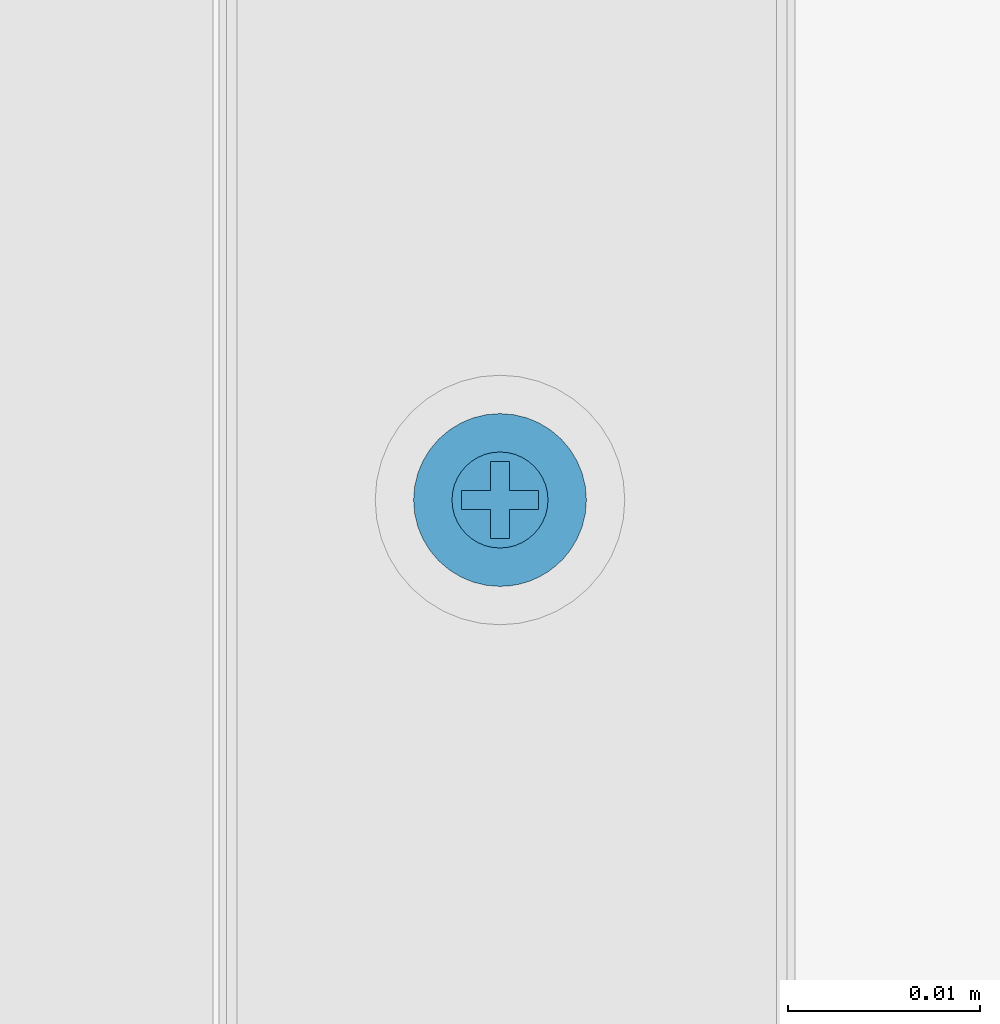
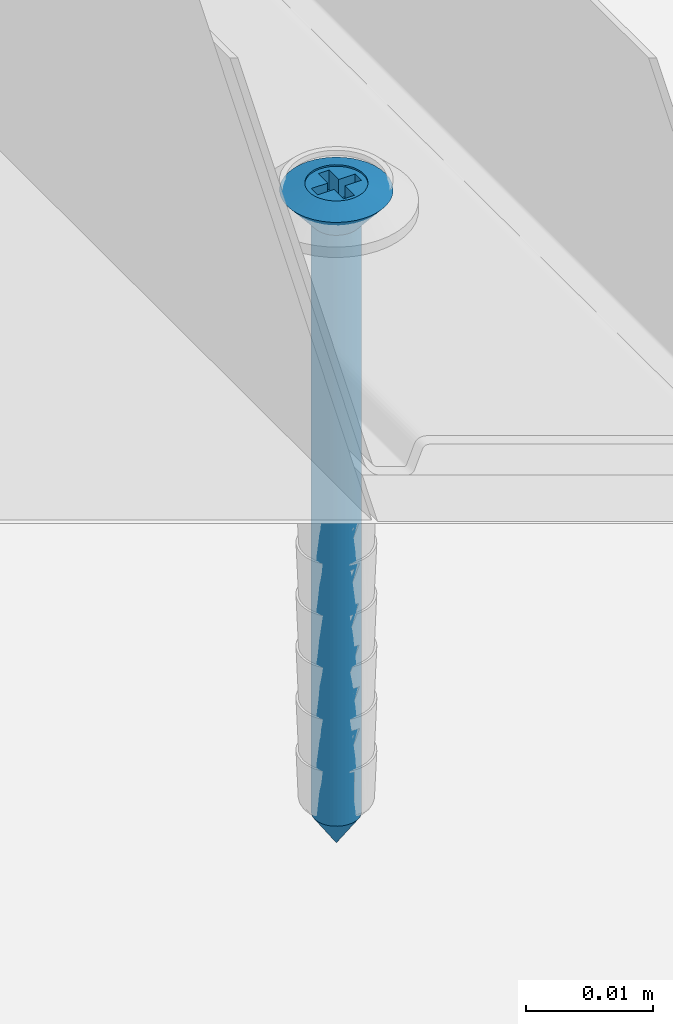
# One storey, part 50 of 61: 1 wall.
"""IFC2X3 building model written with IfcOpenShell, lengths in millimetres."""

from ifc_helpers import new_model, si_unit, frame, origin_with_axes, place, context, subcontext, project, spatial, faceted_brep, material, type_object, element, save


model = new_model("IFC2X3")

# Units and contexts
model_context = context("Model", 3, world=origin_with_axes())
body_context = subcontext(model_context, "Body", "Model", "MODEL_VIEW")
ifc_project = project(units=[si_unit("LENGTHUNIT", "METRE", prefix="MILLI"), si_unit("AREAUNIT", "SQUARE_METRE"), si_unit("VOLUMEUNIT", "CUBIC_METRE")], contexts=[model_context])

# Site, building, storey
site_placement = place(None, frame((2152.1410261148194, -2015.0250894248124, 57.61556563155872), z_axis=(0.0, 0.0, 1.0), x_axis=(-1.1102230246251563e-16, 1.0, 0.0)))
site = spatial("IfcSite", under=ifc_project, at=site_placement, Name="Default Site", CompositionType="ELEMENT")
building_placement = place(site_placement, origin_with_axes())
building = spatial("IfcBuilding", under=site, at=building_placement, Name="Default Building", CompositionType="ELEMENT")
storey_placement = place(building_placement, origin_with_axes())
storey = spatial("IfcBuildingStorey", under=building, at=storey_placement, Name="Default Building Storey", CompositionType="ELEMENT", Elevation=57.61556563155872)

# Wall
ifc_material = material(Name="Default")
wall_type = type_object("IfcWallType", Name="Kołek rozporowy min. fi 6#8", PredefinedType="NOTDEFINED")
wall_placement = place(storey_placement, frame((6993.464255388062, 3390.9954322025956, 10.384025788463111), z_axis=(-6.858158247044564e-13, 7.620176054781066e-14, 1.0), x_axis=(-1.6476028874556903e-11, 1.0, -7.620176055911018e-14)))
element("IfcWall", 1, at=wall_placement, inside=storey, type_object=wall_type, material=ifc_material, Name="Kołek rozporowy min. fi 6", context=body_context, shape_type="Brep", body=[
    faceted_brep([(-1438.3141994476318, 3453.2833099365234, -0.46425670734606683), (-1435.8141422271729, 3453.2833099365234, -3.464256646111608), (-1435.7895851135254, 3452.970266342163, -3.464256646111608), (-1438.2587671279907, 3452.579259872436, -0.46425670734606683), (-1435.7162714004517, 3452.6650905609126, -3.464256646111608), (-1438.093900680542, 3451.892614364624, -0.46425670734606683), (-1435.5961084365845, 3452.3751735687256, -3.464256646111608), (-1437.8236532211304, 3451.240301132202, -0.46425670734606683), (-1435.4321956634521, 3452.107667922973, -3.464256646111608), (-1437.4547004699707, 3450.6382942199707, -0.46425670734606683), (-1435.22834777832, 3451.8690109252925, -3.464256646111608), (-1436.9961023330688, 3450.101137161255, -0.46425670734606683), (-1434.9896907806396, 3451.665163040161, -3.464256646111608), (-1436.4591836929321, 3449.642658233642, -0.46425670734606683), (-1434.7221851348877, 3451.501131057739, -3.464256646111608), (-1435.8570575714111, 3449.2735862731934, -0.46425670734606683), (-1434.4321489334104, 3451.381206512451, -3.464256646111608), (-1435.2047443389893, 3449.0034580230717, -0.46425670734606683), (-1434.1269731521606, 3451.307773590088, -3.464256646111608), (-1434.5180988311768, 3448.838710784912, -0.46425670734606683), (-1433.8141679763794, 3451.28321647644, -3.464256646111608), (-1433.8141679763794, 3448.7831592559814, -0.46425670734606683), (-1433.5012435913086, 3451.307773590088, -3.464256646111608), (-1433.110237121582, 3448.838710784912, -0.46425670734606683), (-1433.1960678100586, 3451.381206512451, -3.464256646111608), (-1432.4235916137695, 3449.0034580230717, -0.46425670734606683), (-1432.9061508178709, 3451.501131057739, -3.464256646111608), (-1431.771159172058, 3449.2735862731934, -0.46425670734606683), (-1432.6385259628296, 3451.665163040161, -3.464256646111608), (-1431.1691522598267, 3449.642658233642, -0.46425670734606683), (-1432.3999881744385, 3451.8690109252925, -3.464256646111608), (-1430.6321144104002, 3450.101137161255, -0.46425670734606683), (-1432.1961402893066, 3452.107667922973, -3.464256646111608), (-1430.1735162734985, 3450.6382942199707, -0.46425670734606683), (-1432.0321083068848, 3452.3751735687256, -3.464256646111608), (-1429.8045635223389, 3451.240301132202, -0.46425670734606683), (-1431.9120645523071, 3452.6650905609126, -3.464256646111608), (-1429.5344352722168, 3451.892614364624, -0.46425670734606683), (-1431.8387508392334, 3453.5961151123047, -3.464256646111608), (-1429.369568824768, 3453.9871215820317, -0.46425670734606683), (-1429.314136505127, 3453.2833099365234, -0.46425670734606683), (-1431.814193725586, 3453.2833099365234, -3.464256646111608), (-1429.369568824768, 3452.579259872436, -0.46425670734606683), (-1431.8387508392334, 3452.970266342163, -3.464256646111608), (-1431.9120645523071, 3453.9012908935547, -3.464256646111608), (-1429.5344352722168, 3454.6737670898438, -0.46425670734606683), (-1432.0321083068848, 3454.191207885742, -3.464256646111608), (-1429.8045635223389, 3455.3260803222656, -0.46425670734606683), (-1432.1961402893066, 3454.458713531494, -3.464256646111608), (-1430.1735162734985, 3455.9283256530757, -0.46425670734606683), (-1432.3999881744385, 3454.6973705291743, -3.464256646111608), (-1430.6321144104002, 3456.465244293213, -0.46425670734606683), (-1432.6385259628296, 3454.9012184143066, -3.464256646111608), (-1431.1691522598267, 3456.923723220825, -0.46425670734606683), (-1432.9061508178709, 3455.065250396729, -3.464256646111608), (-1431.771159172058, 3457.2927951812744, -0.46425670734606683), (-1433.1960678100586, 3455.1854133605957, -3.464256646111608), (-1432.4235916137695, 3457.562923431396, -0.46425670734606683), (-1433.5012435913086, 3455.25860786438, -3.464256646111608), (-1433.110237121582, 3457.7279090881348, -0.46425670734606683), (-1433.8141679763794, 3455.283164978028, -3.464256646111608), (-1433.8141679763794, 3457.7832221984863, -0.46425670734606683), (-1434.3430995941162, 3457.7519893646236, -0.46425670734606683), (-1434.1269731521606, 3455.25860786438, -3.464256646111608), (-1434.4321489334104, 3455.1854133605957, -3.464256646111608), (-1434.8646402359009, 3457.6590061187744, -0.46425670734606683), (-1435.3716373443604, 3457.504987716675, -0.46425670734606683), (-1434.7221851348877, 3455.065250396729, -3.464256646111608), (-1435.8570575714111, 3457.2927951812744, -0.46425670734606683), (-1434.9896907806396, 3454.9012184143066, -3.464256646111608), (-1435.22834777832, 3454.6973705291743, -3.464256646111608), (-1436.3142251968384, 3457.024812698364, -0.46425670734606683), (-1436.7367029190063, 3456.705093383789, -0.46425670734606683), (-1437.118649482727, 3456.337928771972, -0.46425670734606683), (-1437.4547004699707, 3455.9283256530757, -0.46425670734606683), (-1435.4321956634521, 3454.458713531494, -3.464256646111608), (-1435.5961084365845, 3454.191207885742, -3.464256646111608), (-1437.8236532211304, 3455.3260803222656, -0.46425670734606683), (-1435.7162714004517, 3453.9012908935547, -3.464256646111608), (-1438.093900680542, 3454.6737670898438, -0.46425670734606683), (-1435.7895851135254, 3453.5961151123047, -3.464256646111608), (-1438.2587671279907, 3453.9871215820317, -0.46425670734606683), (-1434.2052936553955, 3455.752372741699, 0.20073754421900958), (-1433.8141679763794, 3455.7831287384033, 0.20073754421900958), (-1434.5866441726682, 3455.6608200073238, 0.20073754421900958), (-1434.9491596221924, 3455.510854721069, 0.20073754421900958), (-1435.2836608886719, 3455.305814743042, 0.20073754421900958), (-1435.581922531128, 3455.0509452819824, 0.20073754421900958), (-1435.836672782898, 3454.7526836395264, 0.20073754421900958), (-1436.0417127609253, 3454.418182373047, 0.20073754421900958), (-1436.1917972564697, 3454.0557861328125, 0.20073754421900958), (-1436.2833499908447, 3453.6743164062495, 0.20073754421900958), (-1436.3141059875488, 3453.2833099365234, 0.20073754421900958), (-1436.2833499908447, 3452.8920650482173, 0.20073754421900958), (-1436.1917972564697, 3452.5105953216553, 0.20073754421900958), (-1436.0417127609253, 3452.148199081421, 0.20073754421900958), (-1435.836672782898, 3451.8136978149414, 0.20073754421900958), (-1435.581922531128, 3451.5154361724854, 0.20073754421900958), (-1435.2836608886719, 3451.260566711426, 0.20073754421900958), (-1434.9491596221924, 3451.0557651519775, 0.20073754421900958), (-1434.5866441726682, 3450.905561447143, 0.20073754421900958), (-1433.4230422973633, 3450.8140087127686, 0.20073754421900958), (-1433.8141679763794, 3450.7832527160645, 0.20073754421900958), (-1434.2052936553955, 3450.8140087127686, 0.20073754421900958), (-1433.0415725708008, 3450.905561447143, 0.20073754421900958), (-1432.6791763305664, 3451.0557651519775, 0.20073754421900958), (-1432.344675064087, 3451.260566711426, 0.20073754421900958), (-1432.0464134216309, 3451.5154361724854, 0.20073754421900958), (-1431.7916631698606, 3451.8136978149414, 0.20073754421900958), (-1431.5866231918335, 3452.148199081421, 0.20073754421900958), (-1431.436538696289, 3452.5105953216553, 0.20073754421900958), (-1431.344985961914, 3452.8920650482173, 0.20073754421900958), (-1431.3141107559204, 3453.2833099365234, 0.20073754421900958), (-1431.344985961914, 3453.6743164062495, 0.20073754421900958), (-1431.436538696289, 3454.0557861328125, 0.20073754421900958), (-1431.5866231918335, 3454.418182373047, 0.20073754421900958), (-1431.7916631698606, 3454.7526836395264, 0.20073754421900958), (-1432.0464134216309, 3455.0509452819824, 0.20073754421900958), (-1432.344675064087, 3455.305814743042, 0.20073754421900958), (-1432.6791763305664, 3455.510854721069, 0.20073754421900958), (-1433.0415725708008, 3455.6608200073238, 0.20073754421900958), (-1433.4230422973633, 3455.752372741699, 0.20073754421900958), (-1433.8141679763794, 3453.2833099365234, -63.46425414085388), (-1435.7895851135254, 3452.970266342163, -60.464255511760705), (-1435.8141422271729, 3453.2833099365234, -60.464255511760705), (-1435.7162714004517, 3452.6650905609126, -60.464255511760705), (-1435.5961084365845, 3452.3751735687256, -60.464255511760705), (-1435.4321956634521, 3452.107667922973, -60.464255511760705), (-1435.22834777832, 3451.8690109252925, -60.464255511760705), (-1434.9896907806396, 3451.665163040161, -60.464255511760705), (-1434.7221851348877, 3451.501131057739, -60.464255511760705), (-1434.4321489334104, 3451.381206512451, -60.464255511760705), (-1434.1269731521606, 3451.307773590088, -60.464255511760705), (-1433.8141679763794, 3451.28321647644, -60.464255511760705), (-1433.5012435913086, 3451.307773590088, -60.464255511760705), (-1433.1960678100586, 3451.381206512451, -60.464255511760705), (-1432.9061508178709, 3451.501131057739, -60.464255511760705), (-1432.6385259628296, 3451.665163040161, -60.464255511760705), (-1432.3999881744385, 3451.8690109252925, -60.464255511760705), (-1432.1961402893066, 3452.107667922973, -60.464255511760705), (-1432.0321083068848, 3452.3751735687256, -60.464255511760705), (-1431.9120645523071, 3452.6650905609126, -60.464255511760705), (-1431.8387508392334, 3452.970266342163, -60.464255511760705), (-1431.814193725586, 3453.2833099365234, -60.464255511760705), (-1431.8387508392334, 3453.5961151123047, -60.464255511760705), (-1431.9120645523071, 3453.9012908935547, -60.464255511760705), (-1432.0321083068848, 3454.191207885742, -60.464255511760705), (-1432.1961402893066, 3454.458713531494, -60.464255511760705), (-1432.3999881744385, 3454.6973705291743, -60.464255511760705), (-1432.6385259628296, 3454.9012184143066, -60.464255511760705), (-1432.9061508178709, 3455.065250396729, -60.464255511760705), (-1433.1960678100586, 3455.1854133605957, -60.464255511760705), (-1433.5012435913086, 3455.25860786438, -60.464255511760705), (-1433.8141679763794, 3455.283164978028, -60.464255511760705), (-1434.1269731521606, 3455.25860786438, -60.464255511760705), (-1434.4321489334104, 3455.1854133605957, -60.464255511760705), (-1434.7221851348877, 3455.065250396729, -60.464255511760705), (-1434.9896907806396, 3454.9012184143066, -60.464255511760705), (-1435.22834777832, 3454.6973705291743, -60.464255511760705), (-1435.4321956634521, 3454.458713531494, -60.464255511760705), (-1435.5961084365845, 3454.191207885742, -60.464255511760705), (-1435.7162714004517, 3453.9012908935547, -60.464255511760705), (-1435.7895851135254, 3453.5961151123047, -60.464255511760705), (-1436.0417127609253, 3454.418182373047, 0.049999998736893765), (-1436.1917972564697, 3454.0557861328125, 0.049999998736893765), (-1436.2833499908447, 3453.6743164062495, 0.049999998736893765), (-1436.3141059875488, 3453.2833099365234, 0.049999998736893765), (-1436.2833499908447, 3452.8920650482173, 0.049999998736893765), (-1436.1917972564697, 3452.5105953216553, 0.049999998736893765), (-1436.0417127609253, 3452.148199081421, 0.049999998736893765), (-1435.836672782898, 3451.8136978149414, 0.049999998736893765), (-1435.581922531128, 3451.5154361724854, 0.049999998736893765), (-1435.2836608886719, 3451.260566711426, 0.049999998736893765), (-1434.9491596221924, 3451.0557651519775, 0.049999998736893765), (-1434.5866441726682, 3450.905561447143, 0.049999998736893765), (-1434.2052936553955, 3450.8140087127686, 0.049999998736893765), (-1433.8141679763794, 3450.7832527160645, 0.049999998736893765), (-1433.4230422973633, 3450.8140087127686, 0.049999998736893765), (-1433.0415725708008, 3450.905561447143, 0.049999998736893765), (-1432.6791763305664, 3451.0557651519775, 0.049999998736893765), (-1432.344675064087, 3451.260566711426, 0.049999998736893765), (-1432.0464134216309, 3451.5154361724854, 0.049999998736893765), (-1431.7916631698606, 3451.8136978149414, 0.049999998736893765), (-1431.5866231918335, 3452.148199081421, 0.049999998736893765), (-1431.436538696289, 3452.5105953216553, 0.049999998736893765), (-1431.344985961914, 3452.8920650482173, 0.049999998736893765), (-1431.3141107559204, 3453.2833099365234, 0.049999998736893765), (-1431.344985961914, 3453.6743164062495, 0.049999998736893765), (-1431.436538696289, 3454.0557861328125, 0.049999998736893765), (-1431.5866231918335, 3454.418182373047, 0.049999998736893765), (-1431.7916631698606, 3454.7526836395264, 0.049999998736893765), (-1432.0464134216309, 3455.0509452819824, 0.049999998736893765), (-1432.344675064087, 3455.305814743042, 0.049999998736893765), (-1432.6791763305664, 3455.510854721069, 0.049999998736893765), (-1433.0415725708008, 3455.6608200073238, 0.049999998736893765), (-1433.4230422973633, 3455.752372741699, 0.049999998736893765), (-1433.8141679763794, 3455.7831287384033, 0.049999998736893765), (-1434.2052936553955, 3455.752372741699, 0.049999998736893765), (-1434.5866441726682, 3455.6608200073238, 0.049999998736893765), (-1434.9491596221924, 3455.510854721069, 0.049999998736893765), (-1435.2836608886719, 3455.305814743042, 0.049999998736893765), (-1435.581922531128, 3455.0509452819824, 0.049999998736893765), (-1435.836672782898, 3454.7526836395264, 0.049999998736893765), (-1434.3141317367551, 3452.7831077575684, 0.049999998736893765), (-1435.8141422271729, 3452.7831077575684, 0.049999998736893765), (-1435.8141422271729, 3453.7832736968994, 0.049999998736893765), (-1434.3141317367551, 3453.7832736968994, 0.049999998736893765), (-1434.3141317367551, 3455.283164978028, 0.049999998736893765), (-1433.3142042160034, 3455.283164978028, 0.049999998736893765), (-1433.3142042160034, 3453.7832736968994, 0.049999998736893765), (-1431.814193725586, 3453.7832736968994, 0.049999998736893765), (-1431.814193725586, 3452.7831077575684, 0.049999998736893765), (-1433.3142042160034, 3452.7831077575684, 0.049999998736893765), (-1433.3142042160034, 3451.28321647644, 0.049999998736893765), (-1434.3141317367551, 3451.28321647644, 0.049999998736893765), (-1434.3141317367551, 3452.7831077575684, -1.799262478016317), (-1434.3141317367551, 3451.28321647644, -1.799262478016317), (-1433.3142042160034, 3451.28321647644, -1.799262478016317), (-1433.3142042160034, 3452.7831077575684, -1.799262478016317), (-1431.814193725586, 3452.7831077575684, -1.799262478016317), (-1431.814193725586, 3453.7832736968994, -1.799262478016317), (-1433.3142042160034, 3453.7832736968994, -1.799262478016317), (-1433.3142042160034, 3455.283164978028, -1.799262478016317), (-1434.3141317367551, 3455.283164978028, -1.799262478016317), (-1434.3141317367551, 3453.7832736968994, -1.799262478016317), (-1435.8141422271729, 3453.7832736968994, -1.799262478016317), (-1435.8141422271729, 3452.7831077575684, -1.799262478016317)], [[[0, 1, 2, 3]], [[4, 5, 3, 2]], [[6, 7, 5, 4]], [[7, 6, 8, 9]], [[10, 11, 9, 8]], [[11, 10, 12, 13]], [[14, 15, 13, 12]], [[16, 17, 15, 14]], [[17, 16, 18, 19]], [[20, 21, 19, 18]], [[21, 20, 22, 23]], [[24, 25, 23, 22]], [[26, 27, 25, 24]], [[27, 26, 28, 29]], [[30, 31, 29, 28]], [[31, 30, 32, 33]], [[34, 35, 33, 32]], [[36, 37, 35, 34]], [[38, 39, 40, 41]], [[41, 40, 42, 43]], [[37, 36, 43, 42]], [[44, 45, 39, 38]], [[46, 47, 45, 44]], [[47, 46, 48, 49]], [[50, 51, 49, 48]], [[51, 50, 52, 53]], [[54, 55, 53, 52]], [[56, 57, 55, 54]], [[57, 56, 58, 59]], [[60, 61, 59, 58]], [[62, 61, 63]], [[61, 60, 63]], [[63, 64, 62]], [[64, 65, 62]], [[66, 65, 64]], [[64, 67, 66]], [[67, 68, 66]], [[69, 70, 71]], [[70, 72, 71]], [[71, 68, 69]], [[68, 67, 69]], [[70, 73, 72]], [[74, 73, 75]], [[73, 70, 75]], [[76, 77, 74, 75]], [[78, 79, 77, 76]], [[79, 78, 80, 81]], [[1, 0, 81, 80]], [[82, 83, 62]], [[83, 61, 62]], [[62, 65, 82]], [[65, 84, 82]], [[66, 68, 84]], [[68, 85, 84]], [[84, 65, 66]], [[86, 85, 71]], [[85, 68, 71]], [[72, 73, 87]], [[87, 86, 72]], [[86, 71, 72]], [[88, 87, 74]], [[87, 73, 74]], [[77, 89, 88, 74]], [[79, 90, 89, 77]], [[90, 79, 81, 91]], [[0, 92, 91, 81]], [[92, 0, 3, 93]], [[5, 94, 93, 3]], [[7, 95, 94, 5]], [[95, 7, 9, 96]], [[11, 97, 96, 9]], [[97, 11, 13, 98]], [[15, 99, 98, 13]], [[17, 100, 99, 15]], [[23, 101, 102, 21]], [[21, 102, 103, 19]], [[100, 17, 19, 103]], [[25, 104, 101, 23]], [[27, 105, 104, 25]], [[105, 27, 29, 106]], [[31, 107, 106, 29]], [[107, 31, 33, 108]], [[35, 109, 108, 33]], [[37, 110, 109, 35]], [[110, 37, 42, 111]], [[40, 112, 111, 42]], [[112, 40, 39, 113]], [[45, 114, 113, 39]], [[47, 115, 114, 45]], [[115, 47, 49, 116]], [[51, 117, 116, 49]], [[117, 51, 53, 118]], [[55, 119, 118, 53]], [[57, 120, 119, 55]], [[120, 57, 59, 121]], [[61, 83, 121, 59]], [[122, 123, 124]], [[122, 125, 123]], [[122, 126, 125]], [[127, 126, 122]], [[122, 128, 127]], [[129, 128, 122]], [[122, 130, 129]], [[122, 131, 130]], [[132, 131, 122]], [[122, 133, 132]], [[134, 133, 122]], [[122, 135, 134]], [[122, 136, 135]], [[137, 136, 122]], [[122, 138, 137]], [[139, 138, 122]], [[122, 140, 139]], [[122, 141, 140]], [[142, 141, 122]], [[122, 143, 142]], [[144, 143, 122]], [[122, 145, 144]], [[122, 146, 145]], [[147, 146, 122]], [[122, 148, 147]], [[149, 148, 122]], [[122, 150, 149]], [[122, 151, 150]], [[152, 151, 122]], [[122, 153, 152]], [[154, 153, 122]], [[122, 155, 154]], [[122, 156, 155]], [[157, 156, 122]], [[122, 158, 157]], [[159, 158, 122]], [[122, 160, 159]], [[122, 161, 160]], [[162, 161, 122]], [[124, 162, 122]], [[1, 124, 123, 2]], [[125, 4, 2, 123]], [[126, 6, 4, 125]], [[6, 126, 127, 8]], [[128, 10, 8, 127]], [[10, 128, 129, 12]], [[130, 14, 12, 129]], [[131, 16, 14, 130]], [[16, 131, 132, 18]], [[133, 20, 18, 132]], [[20, 133, 134, 22]], [[135, 24, 22, 134]], [[136, 26, 24, 135]], [[26, 136, 137, 28]], [[138, 30, 28, 137]], [[30, 138, 139, 32]], [[140, 34, 32, 139]], [[141, 36, 34, 140]], [[144, 38, 41, 143]], [[143, 41, 43, 142]], [[36, 141, 142, 43]], [[145, 44, 38, 144]], [[146, 46, 44, 145]], [[46, 146, 147, 48]], [[148, 50, 48, 147]], [[50, 148, 149, 52]], [[150, 54, 52, 149]], [[151, 56, 54, 150]], [[56, 151, 152, 58]], [[153, 60, 58, 152]], [[60, 153, 154, 63]], [[155, 64, 63, 154]], [[156, 67, 64, 155]], [[67, 156, 157, 69]], [[158, 70, 69, 157]], [[70, 158, 159, 75]], [[160, 76, 75, 159]], [[161, 78, 76, 160]], [[78, 161, 162, 80]], [[124, 1, 80, 162]], [[163, 164, 165, 166, 167, 168, 169, 170, 171, 172, 173, 174, 175, 176, 177, 178, 179, 180, 181, 182, 183, 184, 185, 186, 187, 188, 189, 190, 191, 192, 193, 194, 195, 196, 197, 198, 199, 200, 201, 202], [203, 204, 205, 206, 207, 208, 209, 210, 211, 212, 213, 214]], [[187, 186, 112, 113]], [[113, 114, 188, 187]], [[114, 115, 189, 188]], [[190, 189, 115, 116]], [[116, 117, 191, 190]], [[192, 191, 117, 118]], [[118, 119, 193, 192]], [[119, 120, 194, 193]], [[195, 194, 120, 121]], [[121, 83, 196, 195]], [[197, 196, 83, 82]], [[82, 84, 198, 197]], [[84, 85, 199, 198]], [[200, 199, 85, 86]], [[86, 87, 201, 200]], [[202, 201, 87, 88]], [[88, 89, 163, 202]], [[89, 90, 164, 163]], [[92, 93, 167, 166]], [[91, 92, 166, 165]], [[165, 164, 90, 91]], [[93, 94, 168, 167]], [[94, 95, 169, 168]], [[170, 169, 95, 96]], [[96, 97, 171, 170]], [[172, 171, 97, 98]], [[98, 99, 173, 172]], [[99, 100, 174, 173]], [[175, 174, 100, 103]], [[103, 102, 176, 175]], [[177, 176, 102, 101]], [[101, 104, 178, 177]], [[104, 105, 179, 178]], [[180, 179, 105, 106]], [[106, 107, 181, 180]], [[182, 181, 107, 108]], [[108, 109, 183, 182]], [[109, 110, 184, 183]], [[185, 184, 110, 111]], [[111, 112, 186, 185]], [[215, 216, 217, 218, 219, 220, 221, 222, 223, 224, 225, 226]], [[216, 214, 213, 217]], [[215, 203, 214, 216]], [[226, 204, 203, 215]], [[225, 205, 204, 226]], [[224, 206, 205, 225]], [[223, 207, 206, 224]], [[222, 208, 207, 223]], [[221, 209, 208, 222]], [[220, 210, 209, 221]], [[219, 211, 210, 220]], [[218, 212, 211, 219]], [[217, 213, 212, 218]]]),
])

save(model, "model.ifc")
